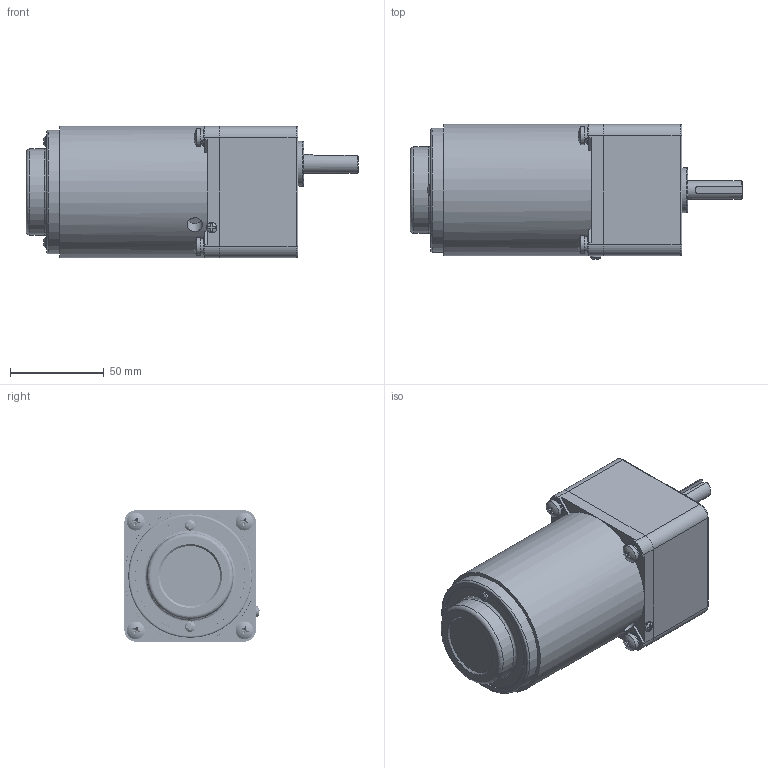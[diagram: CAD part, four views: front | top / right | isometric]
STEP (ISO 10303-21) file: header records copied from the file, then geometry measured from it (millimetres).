
FILE_DESCRIPTION(/* description */ (''),/* implementation_level */ '2;1');
FILE_NAME(/* name */ '70高箱L-25调速.stp',/* time_stamp */ '2022-10-31T09:48:29+08:00',/* author */ (''),/* organization */ (''),/* preprocessor_version */ 'ST-DEVELOPER v16.7',/* originating_system */ 'SIEMENS PLM Software NX 1899',/* authorisation */ '');
FILE_SCHEMA (('AP203_CONFIGURATION_CONTROLLED_3D_DESIGN_OF_MECHANICAL_PARTS_AND_ASSEMBLIES_MIM_LF { 1 0 10303 403 2 1 2}'));
Products named in the file (1): yf186188FEB6lcen
Bounding box: 177 x 72.04 x 70 mm (x, y, z)
Volume: 583135.5 mm3; surface area: 65245.6 mm2
Topology: 14 solids, 16 shells, 339 faces, 845 edges, 557 vertices
Faces by surface type: plane 153, bspline 88, cylinder 70, torus 13, cone 8, sphere 7
Full cylindrical faces by diameter (mm): 2.7 x1, 4.826 x4, 5 x4, 5.3 x4, 5.6 x3, 6 x5, 8.3 x1, 9 x4, 9.5 x4, 10 x1, 24 x1, 37 x1, 46 x1, 58.6 x1, 60 x1, 63 x1, 66 x1, 66.6 x2, 70 x1
Entity records: 69945 total; most frequent: CARTESIAN_POINT 62497, ORIENTED_EDGE 1496, DIRECTION 1239, EDGE_CURVE 748, VERTEX_POINT 524, AXIS2_PLACEMENT_3D 506, EDGE_LOOP 445, ADVANCED_FACE 339
